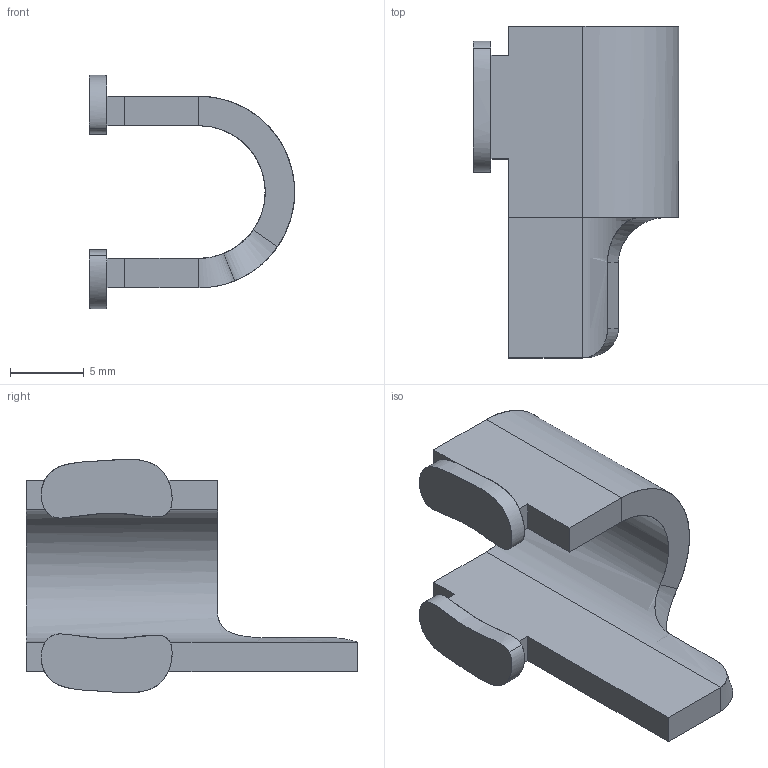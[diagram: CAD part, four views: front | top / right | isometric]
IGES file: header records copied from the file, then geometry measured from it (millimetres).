
Start section: SolidWorks IGES FILE using analytic representation for surfaces
Global section: file name: C:\Documents and Settings\lecoutey\Bureau\POF 310\309.020.00.IGS; native system: SolidWorks 2004 by SolidWorks Corporation; preprocessor: Version 5.3; author: lecoutey; date: 050408.141021; units: millimetre
Bounding box: 13.94 x 22.5 x 15.84 mm (x, y, z)
Surface area: 1204.9 mm2 (no closed solid volume)
Topology: 0 solids, 0 shells, 32 faces, 426 edges, 426 vertices
Faces by surface type: bspline 29, revolution 3
